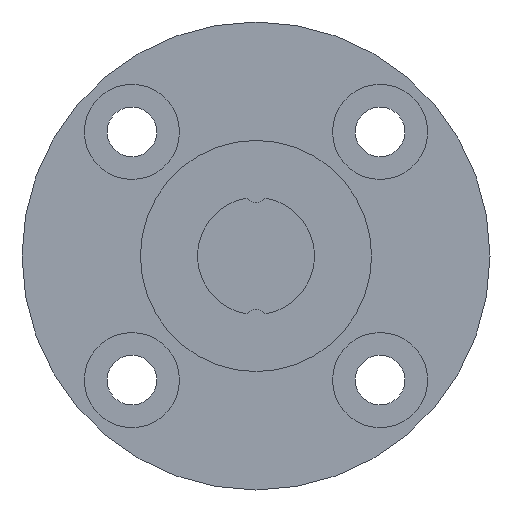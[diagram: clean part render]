
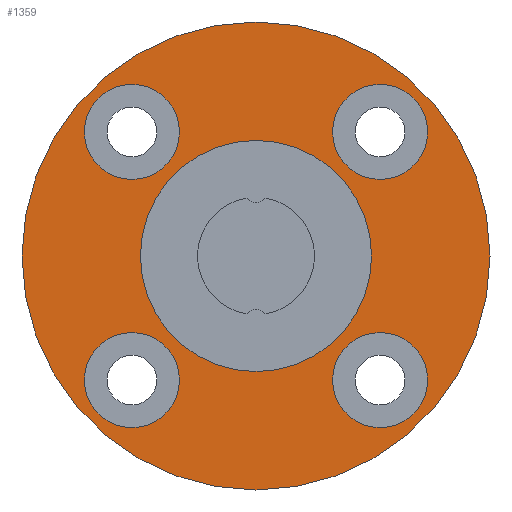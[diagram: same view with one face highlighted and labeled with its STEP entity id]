
A CAD part, left-side view. The second image highlights one B-rep face of the part: STEP entity #1359.
In plain terms, the highlighted planar face has unit normal (-1, 0, 0).
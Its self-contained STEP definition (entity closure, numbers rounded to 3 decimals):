
#357=CARTESIAN_POINT('',(7.15,-8.485,-5.235));
#358=VERTEX_POINT('',#357);
#359=CARTESIAN_POINT('',(7.15,-8.485,-8.485));
#360=DIRECTION('',(1.0,0.0,0.0));
#361=DIRECTION('',(0.0,0.0,1.0));
#362=AXIS2_PLACEMENT_3D('',#359,#360,#361);
#363=CIRCLE('',#362,3.25);
#364=EDGE_CURVE('',#358,#358,#363,.T.);
#467=CARTESIAN_POINT('',(7.15,8.485,-5.235));
#468=VERTEX_POINT('',#467);
#469=CARTESIAN_POINT('',(7.15,8.485,-8.485));
#470=DIRECTION('',(1.0,0.0,0.0));
#471=DIRECTION('',(0.0,0.0,1.0));
#472=AXIS2_PLACEMENT_3D('',#469,#470,#471);
#473=CIRCLE('',#472,3.25);
#474=EDGE_CURVE('',#468,#468,#473,.T.);
#577=CARTESIAN_POINT('',(7.15,8.485,11.735));
#578=VERTEX_POINT('',#577);
#579=CARTESIAN_POINT('',(7.15,8.485,8.485));
#580=DIRECTION('',(1.0,0.0,0.0));
#581=DIRECTION('',(0.0,0.0,1.0));
#582=AXIS2_PLACEMENT_3D('',#579,#580,#581);
#583=CIRCLE('',#582,3.25);
#584=EDGE_CURVE('',#578,#578,#583,.T.);
#687=CARTESIAN_POINT('',(7.15,-8.485,11.735));
#688=VERTEX_POINT('',#687);
#689=CARTESIAN_POINT('',(7.15,-8.485,8.485));
#690=DIRECTION('',(1.0,0.0,0.0));
#691=DIRECTION('',(0.0,0.0,1.0));
#692=AXIS2_PLACEMENT_3D('',#689,#690,#691);
#693=CIRCLE('',#692,3.25);
#694=EDGE_CURVE('',#688,#688,#693,.T.);
#1313=CARTESIAN_POINT('',(7.15,0.0,16.));
#1314=VERTEX_POINT('',#1313);
#1315=CARTESIAN_POINT('',(7.15,0.0,0.));
#1316=DIRECTION('',(-1.0,0.0,0.0));
#1317=DIRECTION('',(0.0,0.0,1.0));
#1318=AXIS2_PLACEMENT_3D('',#1315,#1316,#1317);
#1319=CIRCLE('',#1318,16.);
#1320=EDGE_CURVE('',#1314,#1314,#1319,.T.);
#1328=CARTESIAN_POINT('',(7.15,0.0,11.95));
#1329=DIRECTION('',(-1.0,0.0,0.0));
#1330=DIRECTION('',(0.0,0.0,1.0));
#1331=AXIS2_PLACEMENT_3D('',#1328,#1329,#1330);
#1332=PLANE('',#1331);
#1333=ORIENTED_EDGE('',*,*,#1320,.T.);
#1334=EDGE_LOOP('',(#1333));
#1335=FACE_OUTER_BOUND('',#1334,.T.);
#1336=ORIENTED_EDGE('',*,*,#364,.T.);
#1337=EDGE_LOOP('',(#1336));
#1338=FACE_BOUND('',#1337,.T.);
#1339=ORIENTED_EDGE('',*,*,#474,.T.);
#1340=EDGE_LOOP('',(#1339));
#1341=FACE_BOUND('',#1340,.T.);
#1342=ORIENTED_EDGE('',*,*,#584,.T.);
#1343=EDGE_LOOP('',(#1342));
#1344=FACE_BOUND('',#1343,.T.);
#1345=ORIENTED_EDGE('',*,*,#694,.T.);
#1346=EDGE_LOOP('',(#1345));
#1347=FACE_BOUND('',#1346,.T.);
#1348=CARTESIAN_POINT('',(7.15,0.0,7.9));
#1349=VERTEX_POINT('',#1348);
#1350=CARTESIAN_POINT('',(7.15,0.0,0.));
#1351=DIRECTION('',(-1.0,0.0,0.0));
#1352=DIRECTION('',(0.0,0.0,1.0));
#1353=AXIS2_PLACEMENT_3D('',#1350,#1351,#1352);
#1354=CIRCLE('',#1353,7.9);
#1355=EDGE_CURVE('',#1349,#1349,#1354,.T.);
#1356=ORIENTED_EDGE('',*,*,#1355,.F.);
#1357=EDGE_LOOP('',(#1356));
#1358=FACE_BOUND('',#1357,.T.);
#1359=ADVANCED_FACE('',(#1335,#1338,#1341,#1344,#1347,#1358),#1332,.T.);
